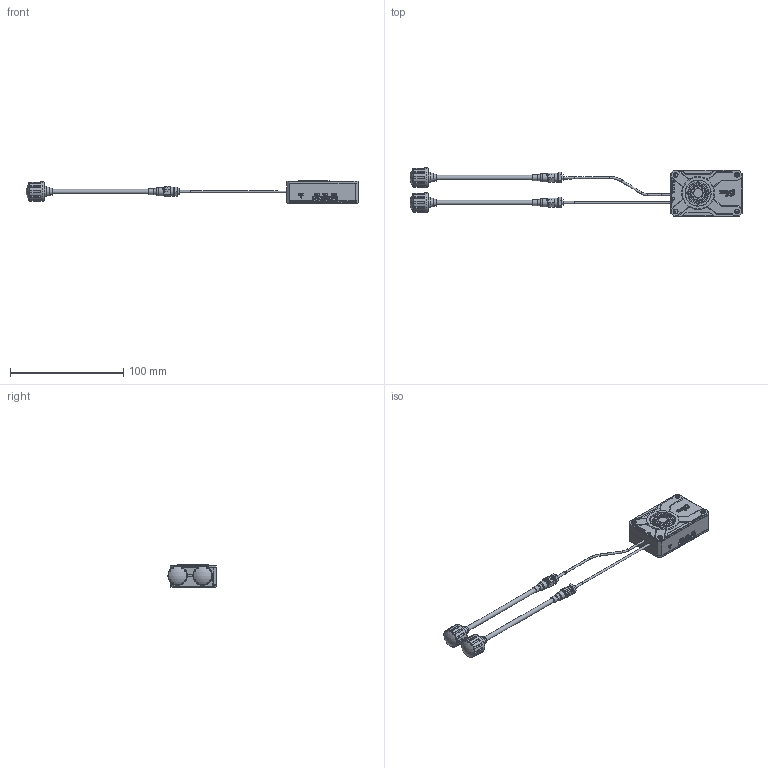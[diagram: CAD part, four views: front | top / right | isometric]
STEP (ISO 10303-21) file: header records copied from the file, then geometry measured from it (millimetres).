
FILE_DESCRIPTION(/* description */ ('CAx-IF Rec.Pracs.---Representation and Presentation of Product Manufacturing Information (PMI)---4.0---2014-10-13','CAx-IF Rec.Pracs.---3D Tessellated Geometry---0.4---2014-09-14','2;1'),/* implementation_level */ '2;1');
FILE_NAME(/* name */ 'LQ10-对外结构',/* time_stamp */ '2026-03-20T18:01:18+08:00',/* author */ (''),/* organization */ (''),/* preprocessor_version */ 'ST-DEVELOPER v16.7',/* originating_system */ $,/* authorisation */ $);
FILE_SCHEMA (('AP242_MANAGED_MODEL_BASED_3D_ENGINEERING_MIM_LF { 1 0 10303 442 20130219 1 4 }'));
Products named in the file (1): LQ10-对外结构
Bounding box: 293.22 x 42.59 x 20 mm (x, y, z)
Volume: 11059.7 mm3; surface area: 29012.6 mm2
Topology: 37 solids, 384 shells, 3899 faces, 13205 edges, 9807 vertices
Faces by surface type: plane 2699, bspline 570, cylinder 495, torus 66, cone 63, sphere 6
Full cylindrical faces by diameter (mm): 1 x4, 1.2 x1, 1.31 x4, 1.6 x4, 1.8 x2, 2 x9, 2.1 x1, 2.4 x2, 2.5 x1, 2.979 x2, 3.2 x2, 4 x12, 4.3 x8, 5.2 x2, 5.25 x2, 5.588 x2, 6.2 x2, 6.35 x4, 6.604 x2, 7.25 x2, 7.64 x2, 7.899 x2, 8 x1, 15 x1, 17 x1, 23 x1
Entity records: 170698 total; most frequent: CARTESIAN_POINT 46537, ORIENTED_EDGE 22448, DIRECTION 18842, EDGE_CURVE 12984, VERTEX_POINT 9745, LINE 9014, VECTOR 9014, AXIS2_PLACEMENT_3D 4922
